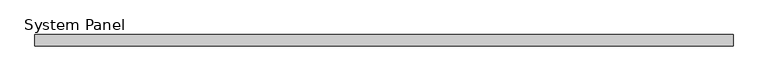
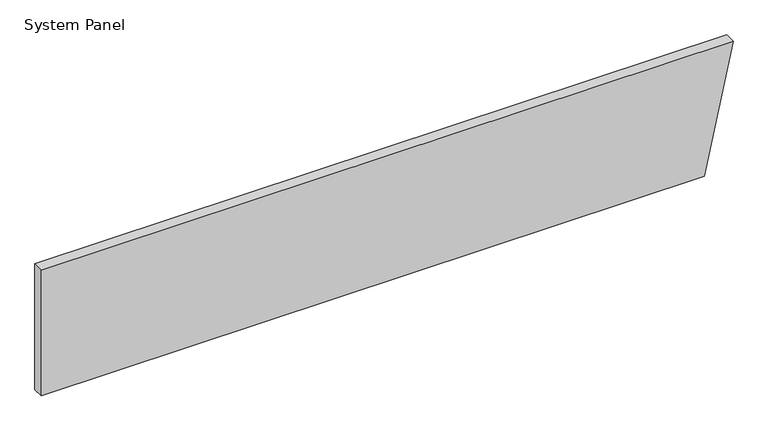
"""IFC4 building model written with IfcOpenShell, lengths in millimetres: plate geometry, System Panel : Equitilt_FlameGuard_100mm_Plain_Surfmist."""

from ifc_helpers import new_model, si_unit, frame, origin, place, context, project, spatial, polyline, outline, extrude, source, transform, mapped, element, save


def system_panel_fafe6fdc(model_context):
    return source(origin(), model_context, "Body", "SweptSolid", [
        extrude(outline(polyline([(0.0, -3125.4358309), (0.0, 2864.5641691), (1200.0, 3125.4358309), (1200.0, -3125.4358309), (0.0, -3125.4358309)])), frame((0.0, -100.0, 0.0), z_axis=(0.0, 1.0, 0.0), x_axis=(0.0, 0.0, 1.0)), (0.0, 0.0, 1.0), 100.0),
    ])


if __name__ == "__main__":
    model = new_model("IFC4")
    model_context = context("Model", 3, world=origin())
    ifc_project = project(units=[si_unit("LENGTHUNIT", "METRE", prefix="MILLI")], contexts=[model_context])
    site = spatial("IfcSite", under=ifc_project)
    building = spatial("IfcBuilding", under=site)
    placement = place(None, origin())
    system_panel_shape = system_panel_fafe6fdc(model_context)
    element("IfcPlate", 1, ObjectType="System Panel : Equitilt_FlameGuard_100mm_Plain_Surfmist", at=placement, inside=building, context=model_context, shape_type="MappedRepresentation", body=[
        mapped(system_panel_shape, transform((0.0, 0.0, 0.0), x_axis=(1.0, 0.0, 0.0), y_axis=(0.0, 1.0, 0.0), z_axis=(0.0, 0.0, 1.0))),
    ])
    save(model, "model.ifc")
